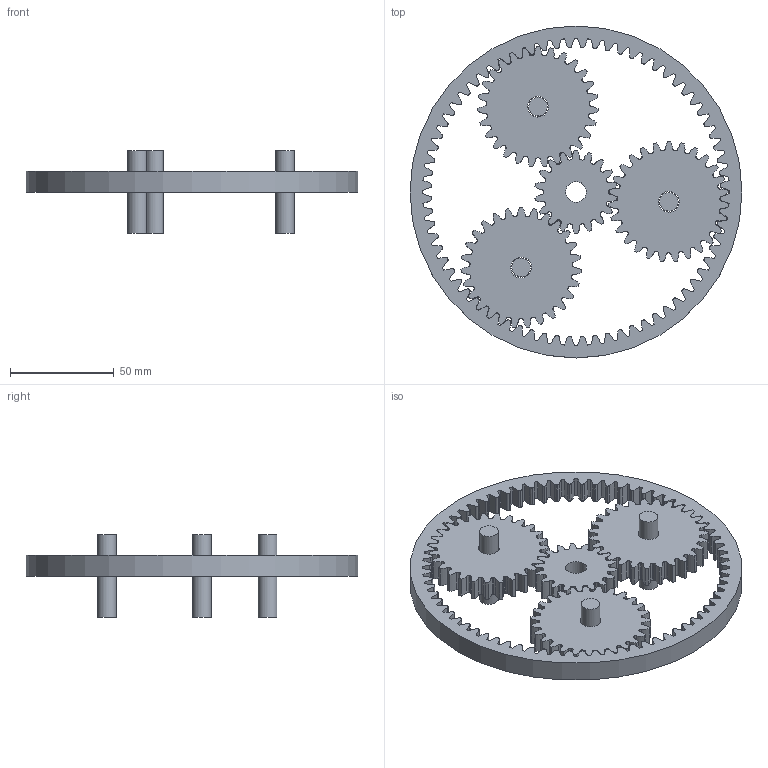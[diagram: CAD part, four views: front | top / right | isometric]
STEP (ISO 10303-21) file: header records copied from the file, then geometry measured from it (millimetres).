
FILE_DESCRIPTION(/* description */ (''),/* implementation_level */ '2;1');
FILE_NAME(/* name */ 'Sun gearbox with motion.step',/* time_stamp */ '2026-07-13T21:27:56+01:00',/* author */ (''),/* organization */ (''),/* preprocessor_version */ 'ST-DEVELOPER v20.1',/* originating_system */ 'Autodesk Translation Framework v15.8.0.0',/* authorisation */ '');
FILE_SCHEMA (('AUTOMOTIVE_DESIGN { 1 0 10303 214 3 1 1 }'));
Length unit declared in the file: millimetre
Products named in the file (7): Sun gearbox with motion; Sun_gear; Ring_Gear; Planet_Gear; shaft_1; shaft_3; shaft_2
Assembly tree (8 placements, depth 2):
  Sun gearbox with motion
    Planet_Gear  x3
    Sun_gear
    Ring_Gear
    shaft_1
    shaft_3
    shaft_2
Bounding box: 160 x 160 x 40 mm (x, y, z)
Volume: 121129.1 mm3; surface area: 53186.6 mm2
Topology: 8 solids, 8 shells, 1086 faces, 3210 edges, 2140 vertices
Faces by surface type: bspline 648, cylinder 386, plane 52
Full cylindrical faces by diameter (mm): 9 x3, 10 x4, 160 x1
Entity records: 81507 total; most frequent: CARTESIAN_POINT 64471, ORIENTED_EDGE 4464, DIRECTION 2490, EDGE_CURVE 2232, VERTEX_POINT 1488, AXIS2_PLACEMENT_3D 891, EDGE_LOOP 762, FACE_OUTER_BOUND 756
